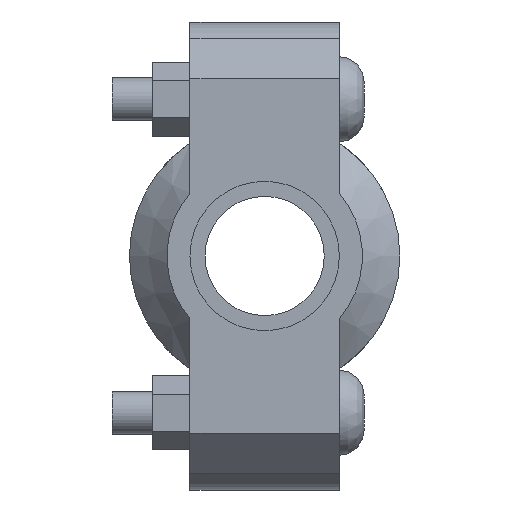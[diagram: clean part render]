
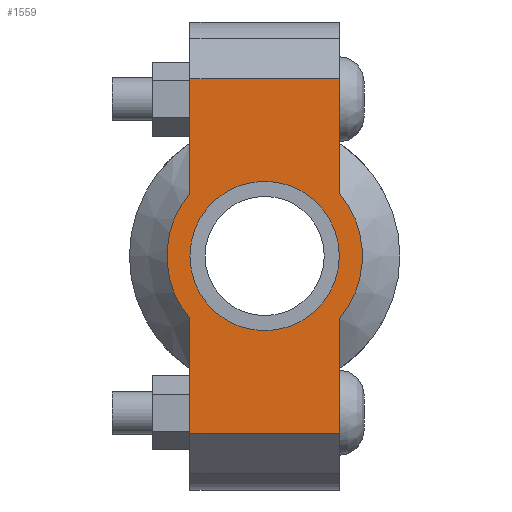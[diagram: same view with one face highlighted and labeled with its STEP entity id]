
A CAD part, left-side view. The second image highlights one B-rep face of the part: STEP entity #1559.
In plain terms, the highlighted planar face has unit normal (-1, 0, 0) as drawn and (0, 0, 1) by its records, which use the part's own axes.
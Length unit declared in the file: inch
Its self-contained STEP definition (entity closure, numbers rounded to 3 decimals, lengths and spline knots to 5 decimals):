
#170=LINE('',#2679,#265);
#185=LINE('',#2738,#280);
#193=LINE('',#2768,#288);
#195=LINE('',#2771,#290);
#196=LINE('',#2776,#291);
#197=LINE('',#2777,#292);
#265=VECTOR('',#2161,0.3937);
#280=VECTOR('',#2196,0.3937);
#288=VECTOR('',#2216,0.3937);
#290=VECTOR('',#2220,0.3937);
#291=VECTOR('',#2225,0.3937);
#292=VECTOR('',#2226,0.3937);
#352=FACE_BOUND('',#511,.T.);
#412=FACE_OUTER_BOUND('',#510,.T.);
#510=EDGE_LOOP('',(#1254,#1255,#1256,#1257,#1258,#1259,#1260,#1261));
#511=EDGE_LOOP('',(#1262));
#616=CIRCLE('',#1822,0.86);
#617=CIRCLE('',#1823,0.86);
#618=CIRCLE('',#1824,0.6575);
#725=VERTEX_POINT('',#2676);
#726=VERTEX_POINT('',#2678);
#747=VERTEX_POINT('',#2733);
#748=VERTEX_POINT('',#2737);
#757=VERTEX_POINT('',#2763);
#758=VERTEX_POINT('',#2767);
#759=VERTEX_POINT('',#2773);
#760=VERTEX_POINT('',#2775);
#761=VERTEX_POINT('',#2779);
#895=EDGE_CURVE('',#726,#725,#170,.T.);
#920=EDGE_CURVE('',#748,#747,#185,.T.);
#933=EDGE_CURVE('',#758,#757,#193,.T.);
#935=EDGE_CURVE('',#758,#725,#195,.T.);
#936=EDGE_CURVE('',#757,#759,#616,.T.);
#937=EDGE_CURVE('',#759,#760,#196,.T.);
#938=EDGE_CURVE('',#748,#760,#197,.T.);
#939=EDGE_CURVE('',#747,#726,#617,.T.);
#940=EDGE_CURVE('',#761,#761,#618,.T.);
#1254=ORIENTED_EDGE('',*,*,#935,.F.);
#1255=ORIENTED_EDGE('',*,*,#933,.T.);
#1256=ORIENTED_EDGE('',*,*,#936,.T.);
#1257=ORIENTED_EDGE('',*,*,#937,.T.);
#1258=ORIENTED_EDGE('',*,*,#938,.F.);
#1259=ORIENTED_EDGE('',*,*,#920,.T.);
#1260=ORIENTED_EDGE('',*,*,#939,.T.);
#1261=ORIENTED_EDGE('',*,*,#895,.T.);
#1262=ORIENTED_EDGE('',*,*,#940,.T.);
#1411=PLANE('',#1821);
#1559=ADVANCED_FACE('',(#412,#352),#1411,.T.);
#1821=AXIS2_PLACEMENT_3D('',#2772,#2221,#2222);
#1822=AXIS2_PLACEMENT_3D('',#2774,#2223,#2224);
#1823=AXIS2_PLACEMENT_3D('',#2778,#2227,#2228);
#1824=AXIS2_PLACEMENT_3D('',#2780,#2229,#2230);
#2161=DIRECTION('',(1.,0.,0.));
#2196=DIRECTION('',(1.,0.,0.));
#2216=DIRECTION('',(-1.,0.,0.));
#2220=DIRECTION('',(0.,-1.,0.));
#2221=DIRECTION('center_axis',(0.,0.,1.));
#2222=DIRECTION('ref_axis',(-1.,0.,0.));
#2223=DIRECTION('center_axis',(0.,0.,1.));
#2224=DIRECTION('ref_axis',(1.,0.,0.));
#2225=DIRECTION('',(-1.,0.,0.));
#2226=DIRECTION('',(0.,1.,0.));
#2227=DIRECTION('center_axis',(0.,0.,1.));
#2228=DIRECTION('ref_axis',(1.,0.,0.));
#2229=DIRECTION('center_axis',(0.,0.,-1.));
#2230=DIRECTION('ref_axis',(1.,0.,0.));
#2676=CARTESIAN_POINT('',(1.56,-0.6575,0.875));
#2678=CARTESIAN_POINT('',(0.55434,-0.6575,0.875));
#2679=CARTESIAN_POINT('',(-2.06,-0.6575,0.875));
#2733=CARTESIAN_POINT('',(-0.55434,-0.6575,0.875));
#2737=CARTESIAN_POINT('',(-1.56,-0.6575,0.875));
#2738=CARTESIAN_POINT('',(-2.06,-0.6575,0.875));
#2763=CARTESIAN_POINT('',(0.55434,0.6575,0.875));
#2767=CARTESIAN_POINT('',(1.56,0.6575,0.875));
#2768=CARTESIAN_POINT('',(2.06,0.6575,0.875));
#2771=CARTESIAN_POINT('',(1.56,-0.32875,0.875));
#2772=CARTESIAN_POINT('Origin',(0.,0.,
0.875));
#2773=CARTESIAN_POINT('',(-0.55434,0.6575,0.875));
#2774=CARTESIAN_POINT('Origin',(0.,0.,0.875));
#2775=CARTESIAN_POINT('',(-1.56,0.6575,0.875));
#2776=CARTESIAN_POINT('',(2.06,0.6575,0.875));
#2777=CARTESIAN_POINT('',(-1.56,0.32875,0.875));
#2778=CARTESIAN_POINT('Origin',(0.,0.,0.875));
#2779=CARTESIAN_POINT('',(-0.6575,0.,0.875));
#2780=CARTESIAN_POINT('Origin',(0.,0.,0.875));
